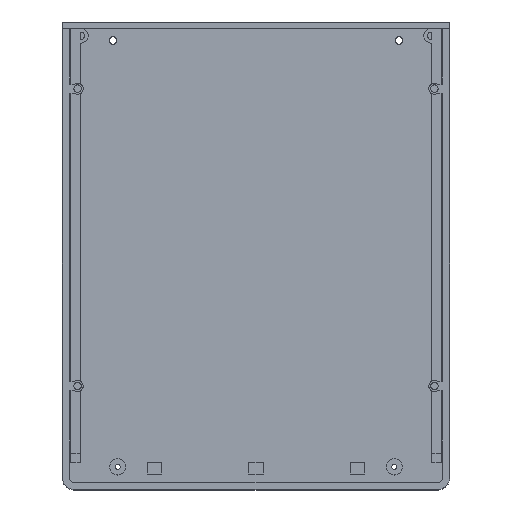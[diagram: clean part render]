
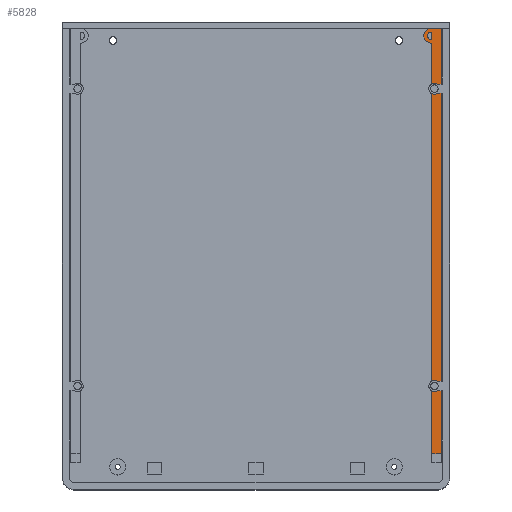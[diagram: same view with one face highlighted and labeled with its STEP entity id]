
A CAD part, top view. The second image highlights one B-rep face of the part: STEP entity #5828.
In plain terms, the highlighted planar face has unit normal (0, 0, 1).
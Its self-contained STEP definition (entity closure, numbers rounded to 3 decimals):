
#151 = PLANE('',#152);
#152 = AXIS2_PLACEMENT_3D('',#153,#154,#155);
#153 = CARTESIAN_POINT('',(-1.,200.,1.4));
#154 = DIRECTION('',(0.,1.,0.));
#155 = DIRECTION('',(0.,0.,1.));
#1343 = VERTEX_POINT('',#1344);
#1344 = CARTESIAN_POINT('',(158.886,200.,3.2));
#1357 = CYLINDRICAL_SURFACE('',#1358,3.2);
#1358 = AXIS2_PLACEMENT_3D('',#1359,#1360,#1361);
#1359 = CARTESIAN_POINT('',(160.,197.,2.8));
#1360 = DIRECTION('',(-0.,-0.,-1.));
#1361 = DIRECTION('',(1.,0.,0.));
#1368 = EDGE_CURVE('',#1369,#1343,#1371,.T.);
#1369 = VERTEX_POINT('',#1370);
#1370 = CARTESIAN_POINT('',(164.3,200.,3.2));
#1371 = SURFACE_CURVE('',#1372,(#1376,#1382),.PCURVE_S1.);
#1372 = LINE('',#1373,#1374);
#1373 = CARTESIAN_POINT('',(79.65,200.,3.2));
#1374 = VECTOR('',#1375,1.);
#1375 = DIRECTION('',(-1.,0.,0.));
#1376 = PCURVE('',#151,#1377);
#1377 = DEFINITIONAL_REPRESENTATION('',(#1378),#1381);
#1378 = B_SPLINE_CURVE_WITH_KNOTS('',1,(#1379,#1380),.UNSPECIFIED.,.F.,
  .F.,(2,2),(-84.65,-77.15),.PIECEWISE_BEZIER_KNOTS.);
#1379 = CARTESIAN_POINT('',(1.8,165.3));
#1380 = CARTESIAN_POINT('',(1.8,157.8));
#1381 = ( GEOMETRIC_REPRESENTATION_CONTEXT(2) 
PARAMETRIC_REPRESENTATION_CONTEXT() REPRESENTATION_CONTEXT('2D SPACE',''
  ) );
#1382 = PCURVE('',#1383,#1388);
#1383 = PLANE('',#1384);
#1384 = AXIS2_PLACEMENT_3D('',#1385,#1386,#1387);
#1385 = CARTESIAN_POINT('',(160.3,14.,3.2));
#1386 = DIRECTION('',(0.,0.,1.));
#1387 = DIRECTION('',(1.,0.,0.));
#1388 = DEFINITIONAL_REPRESENTATION('',(#1389),#1392);
#1389 = B_SPLINE_CURVE_WITH_KNOTS('',1,(#1390,#1391),.UNSPECIFIED.,.F.,
  .F.,(2,2),(-84.65,-77.15),.PIECEWISE_BEZIER_KNOTS.);
#1390 = CARTESIAN_POINT('',(4.,186.));
#1391 = CARTESIAN_POINT('',(-3.5,186.));
#1392 = ( GEOMETRIC_REPRESENTATION_CONTEXT(2) 
PARAMETRIC_REPRESENTATION_CONTEXT() REPRESENTATION_CONTEXT('2D SPACE',''
  ) );
#1409 = PLANE('',#1410);
#1410 = AXIS2_PLACEMENT_3D('',#1411,#1412,#1413);
#1411 = CARTESIAN_POINT('',(164.3,12.,2.8));
#1412 = DIRECTION('',(1.,0.,0.));
#1413 = DIRECTION('',(0.,0.,1.));
#5135 = PLANE('',#5136);
#5136 = AXIS2_PLACEMENT_3D('',#5137,#5138,#5139);
#5137 = CARTESIAN_POINT('',(160.3,12.,2.8));
#5138 = DIRECTION('',(1.,0.,0.));
#5139 = DIRECTION('',(0.,0.,1.));
#5728 = VERTEX_POINT('',#5729);
#5729 = CARTESIAN_POINT('',(164.3,15.7,3.2));
#5745 = PLANE('',#5746);
#5746 = AXIS2_PLACEMENT_3D('',#5747,#5748,#5749);
#5747 = CARTESIAN_POINT('',(160.3,15.7,2.8));
#5748 = DIRECTION('',(0.,1.,0.));
#5749 = DIRECTION('',(0.,0.,1.));
#5808 = EDGE_CURVE('',#5728,#1369,#5809,.T.);
#5809 = SURFACE_CURVE('',#5810,(#5814,#5821),.PCURVE_S1.);
#5810 = LINE('',#5811,#5812);
#5811 = CARTESIAN_POINT('',(164.3,14.,3.2));
#5812 = VECTOR('',#5813,1.);
#5813 = DIRECTION('',(0.,1.,0.));
#5814 = PCURVE('',#1409,#5815);
#5815 = DEFINITIONAL_REPRESENTATION('',(#5816),#5820);
#5816 = LINE('',#5817,#5818);
#5817 = CARTESIAN_POINT('',(0.4,-2.));
#5818 = VECTOR('',#5819,1.);
#5819 = DIRECTION('',(0.,-1.));
#5820 = ( GEOMETRIC_REPRESENTATION_CONTEXT(2) 
PARAMETRIC_REPRESENTATION_CONTEXT() REPRESENTATION_CONTEXT('2D SPACE',''
  ) );
#5821 = PCURVE('',#1383,#5822);
#5822 = DEFINITIONAL_REPRESENTATION('',(#5823),#5827);
#5823 = LINE('',#5824,#5825);
#5824 = CARTESIAN_POINT('',(4.,0.));
#5825 = VECTOR('',#5826,1.);
#5826 = DIRECTION('',(0.,1.));
#5827 = ( GEOMETRIC_REPRESENTATION_CONTEXT(2) 
PARAMETRIC_REPRESENTATION_CONTEXT() REPRESENTATION_CONTEXT('2D SPACE',''
  ) );
#5828 = ADVANCED_FACE('',(#5829,#5900),#1383,.T.);
#5829 = FACE_BOUND('',#5830,.T.);
#5830 = EDGE_LOOP('',(#5831,#5856,#5876,#5877,#5878));
#5831 = ORIENTED_EDGE('',*,*,#5832,.F.);
#5832 = EDGE_CURVE('',#5833,#5835,#5837,.T.);
#5833 = VERTEX_POINT('',#5834);
#5834 = CARTESIAN_POINT('',(160.3,15.7,3.2));
#5835 = VERTEX_POINT('',#5836);
#5836 = CARTESIAN_POINT('',(160.3,193.814,3.2));
#5837 = SURFACE_CURVE('',#5838,(#5842,#5849),.PCURVE_S1.);
#5838 = LINE('',#5839,#5840);
#5839 = CARTESIAN_POINT('',(160.3,14.,3.2));
#5840 = VECTOR('',#5841,1.);
#5841 = DIRECTION('',(0.,1.,0.));
#5842 = PCURVE('',#1383,#5843);
#5843 = DEFINITIONAL_REPRESENTATION('',(#5844),#5848);
#5844 = LINE('',#5845,#5846);
#5845 = CARTESIAN_POINT('',(0.,0.));
#5846 = VECTOR('',#5847,1.);
#5847 = DIRECTION('',(0.,1.));
#5848 = ( GEOMETRIC_REPRESENTATION_CONTEXT(2) 
PARAMETRIC_REPRESENTATION_CONTEXT() REPRESENTATION_CONTEXT('2D SPACE',''
  ) );
#5849 = PCURVE('',#5135,#5850);
#5850 = DEFINITIONAL_REPRESENTATION('',(#5851),#5855);
#5851 = LINE('',#5852,#5853);
#5852 = CARTESIAN_POINT('',(0.4,-2.));
#5853 = VECTOR('',#5854,1.);
#5854 = DIRECTION('',(0.,-1.));
#5855 = ( GEOMETRIC_REPRESENTATION_CONTEXT(2) 
PARAMETRIC_REPRESENTATION_CONTEXT() REPRESENTATION_CONTEXT('2D SPACE',''
  ) );
#5856 = ORIENTED_EDGE('',*,*,#5857,.F.);
#5857 = EDGE_CURVE('',#5728,#5833,#5858,.T.);
#5858 = SURFACE_CURVE('',#5859,(#5863,#5870),.PCURVE_S1.);
#5859 = LINE('',#5860,#5861);
#5860 = CARTESIAN_POINT('',(160.3,15.7,3.2));
#5861 = VECTOR('',#5862,1.);
#5862 = DIRECTION('',(-1.,0.,0.));
#5863 = PCURVE('',#1383,#5864);
#5864 = DEFINITIONAL_REPRESENTATION('',(#5865),#5869);
#5865 = LINE('',#5866,#5867);
#5866 = CARTESIAN_POINT('',(0.,1.7));
#5867 = VECTOR('',#5868,1.);
#5868 = DIRECTION('',(-1.,0.));
#5869 = ( GEOMETRIC_REPRESENTATION_CONTEXT(2) 
PARAMETRIC_REPRESENTATION_CONTEXT() REPRESENTATION_CONTEXT('2D SPACE',''
  ) );
#5870 = PCURVE('',#5745,#5871);
#5871 = DEFINITIONAL_REPRESENTATION('',(#5872),#5875);
#5872 = B_SPLINE_CURVE_WITH_KNOTS('',1,(#5873,#5874),.UNSPECIFIED.,.F.,
  .F.,(2,2),(-4.,0.),.PIECEWISE_BEZIER_KNOTS.);
#5873 = CARTESIAN_POINT('',(0.4,4.));
#5874 = CARTESIAN_POINT('',(0.4,0.));
#5875 = ( GEOMETRIC_REPRESENTATION_CONTEXT(2) 
PARAMETRIC_REPRESENTATION_CONTEXT() REPRESENTATION_CONTEXT('2D SPACE',''
  ) );
#5876 = ORIENTED_EDGE('',*,*,#5808,.T.);
#5877 = ORIENTED_EDGE('',*,*,#1368,.T.);
#5878 = ORIENTED_EDGE('',*,*,#5879,.T.);
#5879 = EDGE_CURVE('',#1343,#5835,#5880,.T.);
#5880 = SURFACE_CURVE('',#5881,(#5886,#5893),.PCURVE_S1.);
#5881 = CIRCLE('',#5882,3.2);
#5882 = AXIS2_PLACEMENT_3D('',#5883,#5884,#5885);
#5883 = CARTESIAN_POINT('',(160.,197.,3.2));
#5884 = DIRECTION('',(0.,0.,1.));
#5885 = DIRECTION('',(1.,0.,0.));
#5886 = PCURVE('',#1383,#5887);
#5887 = DEFINITIONAL_REPRESENTATION('',(#5888),#5892);
#5888 = CIRCLE('',#5889,3.2);
#5889 = AXIS2_PLACEMENT_2D('',#5890,#5891);
#5890 = CARTESIAN_POINT('',(-0.3,183.));
#5891 = DIRECTION('',(1.,0.));
#5892 = ( GEOMETRIC_REPRESENTATION_CONTEXT(2) 
PARAMETRIC_REPRESENTATION_CONTEXT() REPRESENTATION_CONTEXT('2D SPACE',''
  ) );
#5893 = PCURVE('',#1357,#5894);
#5894 = DEFINITIONAL_REPRESENTATION('',(#5895),#5899);
#5895 = LINE('',#5896,#5897);
#5896 = CARTESIAN_POINT('',(-0.,-0.4));
#5897 = VECTOR('',#5898,1.);
#5898 = DIRECTION('',(-1.,0.));
#5899 = ( GEOMETRIC_REPRESENTATION_CONTEXT(2) 
PARAMETRIC_REPRESENTATION_CONTEXT() REPRESENTATION_CONTEXT('2D SPACE',''
  ) );
#5900 = FACE_BOUND('',#5901,.T.);
#5901 = EDGE_LOOP('',(#5902,#5937));
#5902 = ORIENTED_EDGE('',*,*,#5903,.T.);
#5903 = EDGE_CURVE('',#5904,#5906,#5908,.T.);
#5904 = VERTEX_POINT('',#5905);
#5905 = CARTESIAN_POINT('',(160.3,195.428,3.2));
#5906 = VERTEX_POINT('',#5907);
#5907 = CARTESIAN_POINT('',(160.3,198.572,3.2));
#5908 = SURFACE_CURVE('',#5909,(#5914,#5925),.PCURVE_S1.);
#5909 = CIRCLE('',#5910,1.6);
#5910 = AXIS2_PLACEMENT_3D('',#5911,#5912,#5913);
#5911 = CARTESIAN_POINT('',(160.,197.,3.2));
#5912 = DIRECTION('',(0.,0.,-1.));
#5913 = DIRECTION('',(1.,0.,0.));
#5914 = PCURVE('',#1383,#5915);
#5915 = DEFINITIONAL_REPRESENTATION('',(#5916),#5924);
#5916 = ( BOUNDED_CURVE() B_SPLINE_CURVE(2,(#5917,#5918,#5919,#5920,
#5921,#5922,#5923),.UNSPECIFIED.,.T.,.F.) B_SPLINE_CURVE_WITH_KNOTS((1,2
    ,2,2,2,1),(-2.094,0.,2.094,4.189,
6.283,8.378),.UNSPECIFIED.) CURVE() 
GEOMETRIC_REPRESENTATION_ITEM() RATIONAL_B_SPLINE_CURVE((1.,0.5,1.,0.5,
1.,0.5,1.)) REPRESENTATION_ITEM('') );
#5917 = CARTESIAN_POINT('',(1.3,183.));
#5918 = CARTESIAN_POINT('',(1.3,180.229));
#5919 = CARTESIAN_POINT('',(-1.1,181.614));
#5920 = CARTESIAN_POINT('',(-3.5,183.));
#5921 = CARTESIAN_POINT('',(-1.1,184.386));
#5922 = CARTESIAN_POINT('',(1.3,185.771));
#5923 = CARTESIAN_POINT('',(1.3,183.));
#5924 = ( GEOMETRIC_REPRESENTATION_CONTEXT(2) 
PARAMETRIC_REPRESENTATION_CONTEXT() REPRESENTATION_CONTEXT('2D SPACE',''
  ) );
#5925 = PCURVE('',#5926,#5931);
#5926 = CYLINDRICAL_SURFACE('',#5927,1.6);
#5927 = AXIS2_PLACEMENT_3D('',#5928,#5929,#5930);
#5928 = CARTESIAN_POINT('',(160.,197.,0.));
#5929 = DIRECTION('',(-0.,-0.,-1.));
#5930 = DIRECTION('',(1.,0.,0.));
#5931 = DEFINITIONAL_REPRESENTATION('',(#5932),#5936);
#5932 = LINE('',#5933,#5934);
#5933 = CARTESIAN_POINT('',(-6.283,-3.2));
#5934 = VECTOR('',#5935,1.);
#5935 = DIRECTION('',(1.,-0.));
#5936 = ( GEOMETRIC_REPRESENTATION_CONTEXT(2) 
PARAMETRIC_REPRESENTATION_CONTEXT() REPRESENTATION_CONTEXT('2D SPACE',''
  ) );
#5937 = ORIENTED_EDGE('',*,*,#5938,.F.);
#5938 = EDGE_CURVE('',#5904,#5906,#5939,.T.);
#5939 = SURFACE_CURVE('',#5940,(#5944,#5951),.PCURVE_S1.);
#5940 = LINE('',#5941,#5942);
#5941 = CARTESIAN_POINT('',(160.3,14.,3.2));
#5942 = VECTOR('',#5943,1.);
#5943 = DIRECTION('',(0.,1.,0.));
#5944 = PCURVE('',#1383,#5945);
#5945 = DEFINITIONAL_REPRESENTATION('',(#5946),#5950);
#5946 = LINE('',#5947,#5948);
#5947 = CARTESIAN_POINT('',(0.,0.));
#5948 = VECTOR('',#5949,1.);
#5949 = DIRECTION('',(0.,1.));
#5950 = ( GEOMETRIC_REPRESENTATION_CONTEXT(2) 
PARAMETRIC_REPRESENTATION_CONTEXT() REPRESENTATION_CONTEXT('2D SPACE',''
  ) );
#5951 = PCURVE('',#5952,#5957);
#5952 = PLANE('',#5953);
#5953 = AXIS2_PLACEMENT_3D('',#5954,#5955,#5956);
#5954 = CARTESIAN_POINT('',(160.3,12.,2.8));
#5955 = DIRECTION('',(1.,0.,0.));
#5956 = DIRECTION('',(0.,0.,1.));
#5957 = DEFINITIONAL_REPRESENTATION('',(#5958),#5962);
#5958 = LINE('',#5959,#5960);
#5959 = CARTESIAN_POINT('',(0.4,-2.));
#5960 = VECTOR('',#5961,1.);
#5961 = DIRECTION('',(0.,-1.));
#5962 = ( GEOMETRIC_REPRESENTATION_CONTEXT(2) 
PARAMETRIC_REPRESENTATION_CONTEXT() REPRESENTATION_CONTEXT('2D SPACE',''
  ) );
